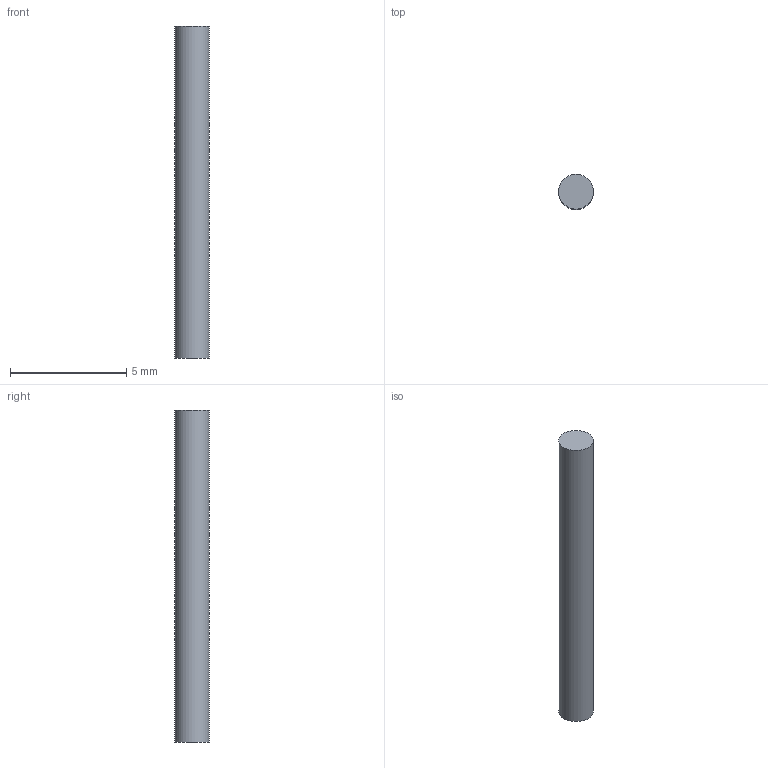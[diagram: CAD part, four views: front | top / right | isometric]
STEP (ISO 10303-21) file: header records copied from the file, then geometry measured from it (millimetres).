
FILE_DESCRIPTION(/* description */ (''),/* implementation_level */ '2;1');
FILE_NAME(/* name */ 'Trigger Pin.step',/* time_stamp */ '2022-11-01T10:47:25+09:00',/* author */ (''),/* organization */ (''),/* preprocessor_version */ 'ST-DEVELOPER v19.2',/* originating_system */ 'Autodesk Translation Framework v11.17.0.187',/* authorisation */ '');
FILE_SCHEMA (('AUTOMOTIVE_DESIGN { 1 0 10303 214 3 1 1 }'));
Length unit declared in the file: millimetre
Products named in the file (1): Trigger Pin
Bounding box: 1.5 x 1.5 x 14.3 mm (x, y, z)
Volume: 25.3 mm3; surface area: 70.9 mm2
Topology: 1 solids, 1 shells, 3 faces, 3 edges, 2 vertices
Faces by surface type: plane 2, cylinder 1
Full cylindrical faces by diameter (mm): 1.5 x1
Entity records: 99 total; most frequent: DIRECTION 13, CARTESIAN_POINT 9, ORIENTED_EDGE 6, AXIS2_PLACEMENT_3D 6, FACE_OUTER_BOUND 3, EDGE_LOOP 3, EDGE_CURVE 3, ADVANCED_FACE 3
